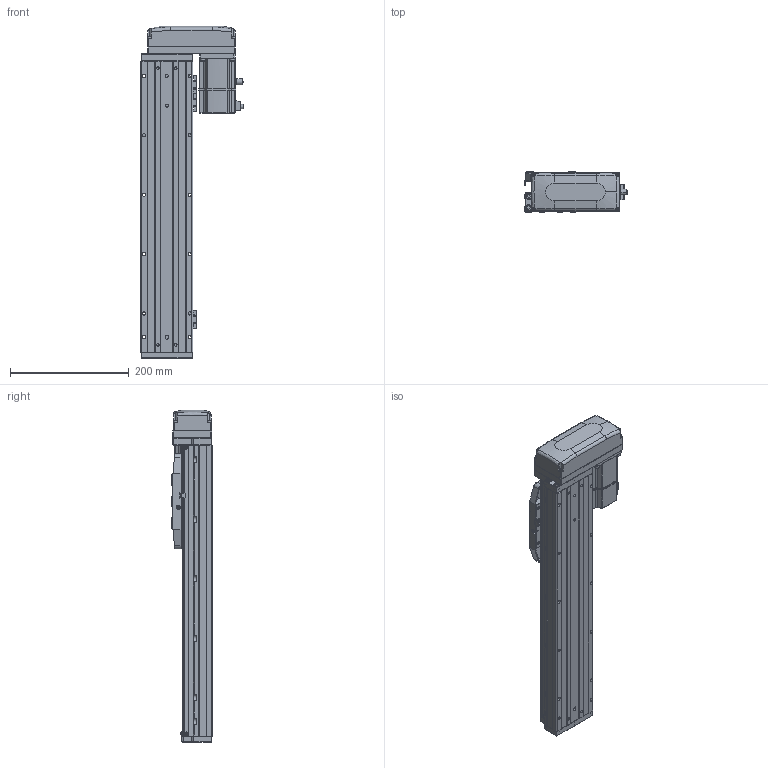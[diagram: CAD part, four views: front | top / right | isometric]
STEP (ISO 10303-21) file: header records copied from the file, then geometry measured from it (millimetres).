
FILE_DESCRIPTION (( 'STEP AP203' ), '1' );
FILE_NAME ('CTHA86-300-BL-M20-C4L.step', '2022-04-26T00:50:44', ( '微软用户' ), ( '微软中国' ), 'SwSTEP 2.0', 'SolidWorks 2020', '' );
FILE_SCHEMA (( 'CONFIG_CONTROL_DESIGN' ));
Length unit declared in the file: millimetre
Products named in the file (21): CTHA60-016; CTHA60-021; CTHA86-033; KTHA86-001_490; _X2_4E0983F1_X0_200W_1; GBT77-2000 M3×3; CTHA86-300-BL-M20-C4L; KTHA86-004; CTHA86-002; GBT 70.1-M3×20; KTHA86-005; CTHA86-031; GBT70.1 M5℅16; GB¨uT 70.2-M3¡Á5_M3¡Á6; CTHA86-030; GBT 70.1-M3×16; EE_SX911P_R; GBT 70.3-M3℅6; GBT 70.1-M3℅6; CTHA60-017; CTHA86-015-1_CTHA86-015-2
Assembly tree (66 placements, depth 2):
  CTHA86-300-BL-M20-C4L
    KTHA86-001_490
    KTHA86-004
    KTHA86-005
    GB¨uT 70.2-M3¡Á5_M3¡Á6  x10
    EE_SX911P_R  x3
    CTHA60-017  x3
    CTHA60-021  x2
    GBT77-2000 M3×3  x6
    GBT 70.1-M3×20
    GBT70.1 M5℅16  x14
    GBT 70.1-M3×16  x5
    GBT 70.1-M3℅6  x6
    CTHA60-016  x2
    _X2_4E0983F1_X0_200W_1
    CTHA86-002
    CTHA86-031
    CTHA86-030  x2
    GBT 70.3-M3℅6  x4
    CTHA86-015-1_CTHA86-015-2
    CTHA86-033
Bounding box: 172.7 x 68 x 559 mm (x, y, z)
Volume: 2508673 mm3; surface area: 448541.6 mm2
Topology: 68 solids, 68 shells, 2726 faces, 6484 edges, 3988 vertices
Faces by surface type: plane 1427, cylinder 705, cone 363, torus 132, bspline 75, sphere 24
Entity records: 47143 total; most frequent: CARTESIAN_POINT 9171, DIRECTION 7299, ORIENTED_EDGE 7068, EDGE_CURVE 3534, AXIS2_PLACEMENT_3D 2500, LINE 2299, VECTOR 2299, VERTEX_POINT 2220
